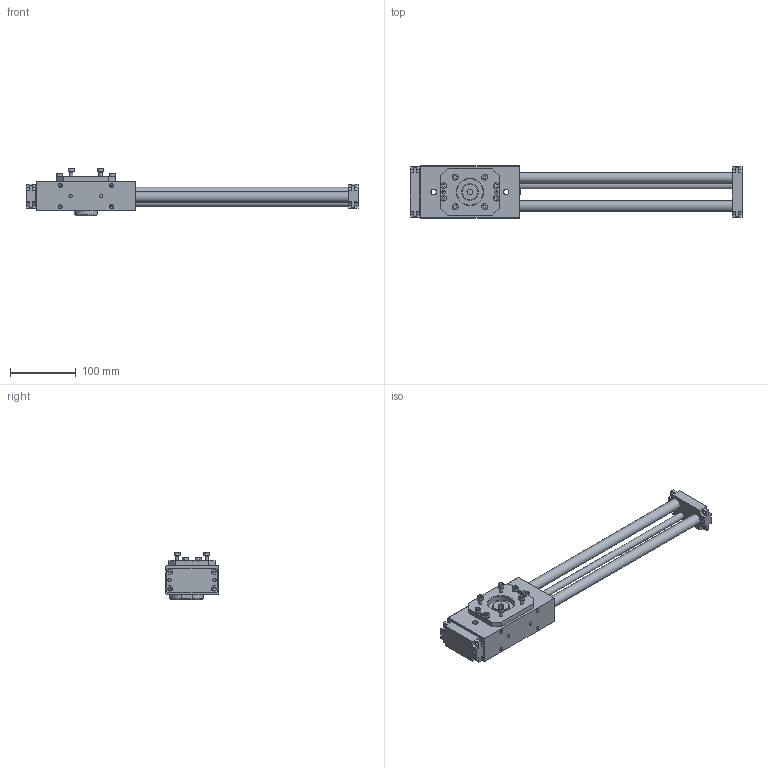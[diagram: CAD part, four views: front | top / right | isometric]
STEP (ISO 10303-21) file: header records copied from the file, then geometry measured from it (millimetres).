
FILE_DESCRIPTION( ( 'STEP AP214' ), '1' );
FILE_NAME( 'U:/Etudes/Top Solid/BIBLIO 3D AVM/STEP/N_ELECTRIQUE/Linéaires/Type 832/8322603.step', '2007-06-28T10:03:25', ( ' ' ), ( ' ' ), 'XStep 1.0', ' ', ' ' );
FILE_SCHEMA( ( 'automotive_design' ) );
Length unit declared in the file: millimetre
Products named in the file (7): 1; 2; 3; 4; 5; 6; 7
Bounding box: 504 x 79 x 72.5 mm (x, y, z)
Volume: 748891.7 mm3; surface area: 171299.1 mm2
Topology: 7 solids, 13 shells, 419 faces, 999 edges, 668 vertices
Faces by surface type: plane 238, cylinder 137, cone 42, bspline 2
Full cylindrical faces by diameter (mm): 3.242 x4, 4.134 x12, 4.918 x8, 5 x20, 5.02 x12, 5.1 x4, 5.2 x10, 5.5 x4, 6.1 x4, 8 x6, 8.5 x14, 9 x1, 10 x2, 14 x1, 16 x5, 19 x1, 25 x1, 40 x1
Entity records: 14806 total; most frequent: CARTESIAN_POINT 2367, DIRECTION 1890, ORIENTED_EDGE 1534, EDGE_CURVE 767, AXIS2_PLACEMENT_3D 712, EDGE_LOOP 684, VERTEX_POINT 601, FACE_OUTER_BOUND 529
